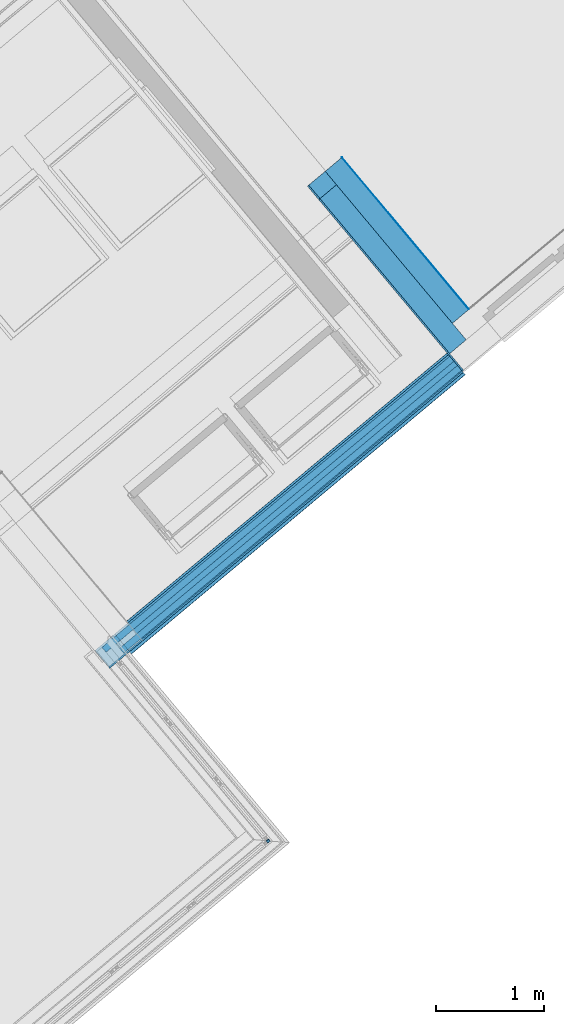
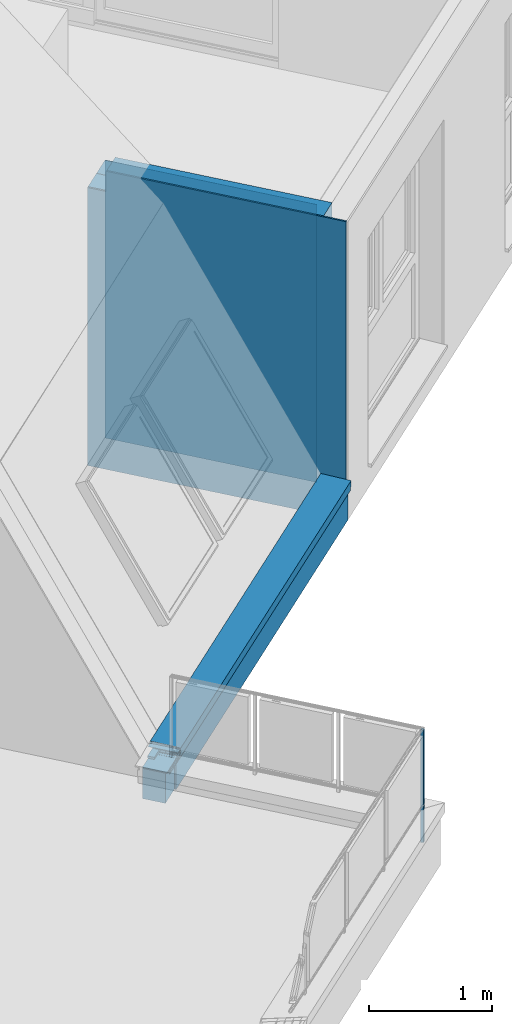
# One storey, part 30 of 61: 12 building element parts, 3 elements without a shape of their own.
"""IFC4 building model written with IfcOpenShell, lengths in metres."""

import ifcopenshell
import ifcopenshell.guid

model = None  # the IFC model being written
_history = None  # IfcOwnerHistory: only IFC2X3 demands one
_inside = {}  # id of a spatial element -> (the spatial element, [elements in it])
_under = {}  # id of a project, library or spatial element -> (it, [spatial elements below it])
_declared = {}  # id of a project -> (the project, [libraries it declares])
_typed = {}  # id of a type object -> (the type object, [elements of that type])
_made_of = {}  # id of a material, layer set ... -> (it, [elements and type objects made of it])


def new_model(schema):
    """Start an empty IFC model of exactly this schema.

    Asked for "IFC4X3", IfcOpenShell would pick the latest addendum, in which some entities
    have other attributes; the version numbers below select the first issue.
    IFC2X3 requires an IfcOwnerHistory on every rooted entity: one is made here for all.
    """
    global model, _history
    if schema == "IFC4X3":
        model = ifcopenshell.file(schema_version=(4, 3, 0, 0))
    else:
        model = ifcopenshell.file(schema=schema)
    _inside.clear()
    _under.clear()
    _declared.clear()
    _typed.clear()
    _made_of.clear()
    _history = None
    if model.schema == "IFC2X3":
        org = make("IfcOrganization", Name="unknown")
        user = make(
            "IfcPersonAndOrganization",
            ThePerson=make("IfcPerson", FamilyName="unknown"),
            TheOrganization=org,
        )
        app = make(
            "IfcApplication",
            ApplicationDeveloper=org,
            Version="unknown",
            ApplicationFullName="unknown",
            ApplicationIdentifier="unknown",
        )
        _history = make(
            "IfcOwnerHistory",
            OwningUser=user,
            OwningApplication=app,
            ChangeAction="ADDED",
            CreationDate=0,
        )
    return model


def make(cls, **values):
    """One entity of the class cls with the attributes given. An attribute that is None is left unset."""
    return model.create_entity(
        cls, **{name: value for name, value in values.items() if value is not None}
    )


def entity(cls, *values):
    """Any entity or typed value of the class cls, its attributes in the order of the schema. None: left unset."""
    e = model.create_entity(cls)
    for i, value in enumerate(values):
        if value is not None:
            e[i] = value
    return e


def rooted(cls, **values):
    """An entity with a GlobalId (a new one), such as an element, a storey or a relation."""
    return make(cls, GlobalId=ifcopenshell.guid.new(), OwnerHistory=_history, **values)


def si_unit(unit_type, name, prefix=None):
    """IfcSIUnit, for example si_unit("LENGTHUNIT", "METRE", prefix="MILLI")."""
    return make("IfcSIUnit", UnitType=unit_type, Prefix=prefix, Name=name)


def converted_unit(unit_type, name, factor, base, dimensions=None, offset=None):
    """IfcConversionBasedUnit, such as the inch: factor (a typed value) times the base unit."""
    return make(
        "IfcConversionBasedUnit"
        if offset is None
        else "IfcConversionBasedUnitWithOffset",
        ConversionOffset=offset,
        Dimensions=None
        if dimensions is None
        else entity("IfcDimensionalExponents", *dimensions),
        UnitType=unit_type,
        Name=name,
        ConversionFactor=make(
            "IfcMeasureWithUnit", ValueComponent=factor, UnitComponent=base
        ),
    )


def derived_unit(unit_type, elements):
    """IfcDerivedUnit: a product of units, each with its exponent."""
    return make(
        "IfcDerivedUnit",
        Elements=[
            make("IfcDerivedUnitElement", Unit=unit, Exponent=power)
            for unit, power in elements
        ],
        UnitType=unit_type,
    )


def assignment(units):
    """IfcUnitAssignment: the units of a project."""
    return None if units is None else make("IfcUnitAssignment", Units=units)


def point(xyz):
    """IfcCartesianPoint."""
    return None if xyz is None else make("IfcCartesianPoint", Coordinates=xyz)


def direction(xyz):
    """IfcDirection."""
    return None if xyz is None else make("IfcDirection", DirectionRatios=xyz)


def frame(location, z_axis=None, x_axis=None):
    """IfcAxis2Placement3D, a coordinate frame: its origin and axes. An axis left out is left unset."""
    return make(
        "IfcAxis2Placement3D",
        Location=point(location),
        Axis=direction(z_axis),
        RefDirection=direction(x_axis),
    )


def origin_with_axes():
    """The frame at (0, 0, 0) with the z axis (0, 0, 1) and the x axis (1, 0, 0) written out."""
    return frame((0.0, 0.0, 0.0), z_axis=(0.0, 0.0, 1.0), x_axis=(1.0, 0.0, 0.0))


def place(relative_to, where):
    """IfcLocalPlacement: puts the frame where relative to a parent placement (None: the world)."""
    return make(
        "IfcLocalPlacement", PlacementRelTo=relative_to, RelativePlacement=where
    )


def context(
    kind, dimensions, precision=None, world=None, true_north=None, identifier=None
):
    """IfcGeometricRepresentationContext, for example the 3D "Model" context."""
    return make(
        "IfcGeometricRepresentationContext",
        ContextIdentifier=identifier,
        ContextType=kind,
        CoordinateSpaceDimension=dimensions,
        Precision=precision,
        WorldCoordinateSystem=world,
        TrueNorth=true_north,
    )


def subcontext(parent, identifier, kind, view, scale=None):
    """IfcGeometricRepresentationSubContext, for example "Body" below "Model"."""
    return make(
        "IfcGeometricRepresentationSubContext",
        ContextIdentifier=identifier,
        ContextType=kind,
        ParentContext=parent,
        TargetScale=scale,
        TargetView=view,
    )


def project(units=None, contexts=None):
    """IfcProject with its units and contexts."""
    return rooted(
        "IfcProject",
        Name="project",
        RepresentationContexts=contexts,
        UnitsInContext=assignment(units),
    )


def spatial(cls, under=None, at=None, **own):
    """A site, building, storey or space (cls), placed at a placement, below another one or the project."""
    s = rooted(cls, ObjectPlacement=at, **own)
    if under is not None:
        _under.setdefault(under.id(), (under, []))[1].append(s)
    return s


def point_list(points):
    """IfcCartesianPointList2D or 3D."""
    cls = (
        "IfcCartesianPointList2D" if len(points[0]) == 2 else "IfcCartesianPointList3D"
    )
    return make(cls, CoordList=points)


def polygons(points, faces, closed=None, point_numbers=None):
    """IfcPolygonalFaceSet: a face is its outer loop, then its inner loops; points numbered from 1."""
    made = []
    for loops in faces:
        if len(loops) == 1:
            made.append(make("IfcIndexedPolygonalFace", CoordIndex=loops[0]))
        else:
            made.append(
                make(
                    "IfcIndexedPolygonalFaceWithVoids",
                    CoordIndex=loops[0],
                    InnerCoordIndices=loops[1:],
                )
            )
    return make(
        "IfcPolygonalFaceSet",
        Coordinates=point_list(points),
        Closed=closed,
        Faces=made,
        PnIndex=point_numbers,
    )


def shape(context_of_items, identifier, shape_type, items):
    """IfcShapeRepresentation: the items that make up one representation, for example the "Body"."""
    return make(
        "IfcShapeRepresentation",
        ContextOfItems=context_of_items,
        RepresentationIdentifier=identifier,
        RepresentationType=shape_type,
        Items=items,
    )


def material(Name=None, Category=None):
    """IfcMaterial."""
    return make("IfcMaterial", Name=Name, Category=Category)


def made_of(thing, what):
    """Note that an element or type object is made of a material, layer set ...; save() writes the relation."""
    if what is not None:
        _made_of.setdefault(what.id(), (what, []))[1].append(thing)
    return thing


def type_object(cls, material=None, **own):
    """A type object (cls), such as IfcWallType, which elements share."""
    return made_of(rooted(cls, **own), material)


def element(
    cls,
    number,
    at=None,
    inside=None,
    cuts=None,
    type_object=None,
    material=None,
    context=None,
    identifier="Body",
    shape_type=None,
    held_by="IfcProductDefinitionShape",
    body=None,
    shapes=None,
    **own,
):
    """One element of the class cls, such as IfcWall. Its Tag is "e" and its number.

    at: its placement. inside: the storey or other place that contains it. cuts: it is an
    opening in that element (IfcRelVoidsElement). A single representation is given by context,
    identifier, shape_type and body (its items); several are given by shapes. held_by: the class
    of the entity that holds the representations. save() writes the other relations.
    """
    e = rooted(cls, Tag="e%d" % number, ObjectPlacement=at, **own)
    if body is not None:
        shapes = [shape(context, identifier, shape_type, body)]
    if shapes is not None:
        e.Representation = make(held_by, Representations=shapes)
    if inside is not None:
        _inside.setdefault(inside.id(), (inside, []))[1].append(e)
    if cuts is not None:
        rooted(
            "IfcRelVoidsElement", RelatingBuildingElement=cuts, RelatedOpeningElement=e
        )
    if type_object is not None:
        _typed.setdefault(type_object.id(), (type_object, []))[1].append(e)
    return made_of(e, material)


def aggregate(whole, parts):
    """IfcRelAggregates: a whole, such as a stair, and the parts it consists of."""
    return rooted("IfcRelAggregates", RelatingObject=whole, RelatedObjects=parts)


def save(model, path):
    """Write the relations noted so far, then the file.

    IfcRelAggregates (storeys below a building ...), IfcRelContainedInSpatialStructure (elements
    in a storey), IfcRelDefinesByType, IfcRelAssociatesMaterial and IfcRelDeclares: one each for
    every whole, place, type object, material and project.
    """
    for whole, parts in _under.values():
        aggregate(whole, parts)
    for where, things in _inside.values():
        rooted(
            "IfcRelContainedInSpatialStructure",
            RelatedElements=things,
            RelatingStructure=where,
        )
    for kind, things in _typed.values():
        rooted("IfcRelDefinesByType", RelatedObjects=things, RelatingType=kind)
    for what, things in _made_of.values():
        rooted("IfcRelAssociatesMaterial", RelatedObjects=things, RelatingMaterial=what)
    for by, libraries in _declared.values():
        rooted("IfcRelDeclares", RelatingContext=by, RelatedDefinitions=libraries)
    model.write(path)


model = new_model("IFC4")

# Units and contexts
model_context = context("Model", 3, precision=1e-05, world=origin_with_axes(), true_north=direction((0.0, 1.0)))
body_context = subcontext(model_context, "Body", "Model", "MODEL_VIEW")
ifc_project = project(units=[si_unit("LENGTHUNIT", "METRE"), si_unit("AREAUNIT", "SQUARE_METRE"), si_unit("VOLUMEUNIT", "CUBIC_METRE"), converted_unit("PLANEANGLEUNIT", "DEGREE", entity("IfcPlaneAngleMeasure", 0.0174532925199), si_unit("PLANEANGLEUNIT", "RADIAN"), dimensions=[0, 0, 0, 0, 0, 0, 0]), converted_unit("TIMEUNIT", "Year", entity("IfcTimeMeasure", 31556926.0), si_unit("TIMEUNIT", "SECOND"), dimensions=[0, 0, 1, 0, 0, 0, 0]), si_unit("MASSUNIT", "GRAM", prefix="KILO"), si_unit("THERMODYNAMICTEMPERATUREUNIT", "DEGREE_CELSIUS"), si_unit("LUMINOUSINTENSITYUNIT", "LUMEN"), si_unit("ENERGYUNIT", "JOULE", prefix="MEGA"), derived_unit("THERMALCONDUCTANCEUNIT", [(si_unit("POWERUNIT", "WATT"), 1), (si_unit("LENGTHUNIT", "METRE"), -1), (si_unit("THERMODYNAMICTEMPERATUREUNIT", "KELVIN"), -1)]), derived_unit("SPECIFICHEATCAPACITYUNIT", [(si_unit("ENERGYUNIT", "JOULE"), 1), (si_unit("MASSUNIT", "GRAM", prefix="KILO"), -1), (si_unit("THERMODYNAMICTEMPERATUREUNIT", "KELVIN"), -1)]), derived_unit("MASSDENSITYUNIT", [(si_unit("MASSUNIT", "GRAM", prefix="KILO"), 1), (si_unit("VOLUMEUNIT", "CUBIC_METRE"), -1)])], contexts=[model_context])

# Site, building, storey, space
site_placement = place(None, frame((-0.00153261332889, -0.00661245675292, 0.0), z_axis=(0.0, 0.0, 1.0), x_axis=(1.0, 0.0, 0.0)))
site = spatial("IfcSite", under=ifc_project, at=site_placement, Name="Gelände", CompositionType="ELEMENT")
building_placement = place(site_placement, origin_with_axes())
building = spatial("IfcBuilding", under=site, at=building_placement, Name="Gebäude", CompositionType="ELEMENT")
storey_placement = place(building_placement, frame((0.0, 0.0, 5.7), z_axis=(0.0, 0.0, 1.0), x_axis=(1.0, 0.0, 0.0)))
storey = spatial("IfcBuildingStorey", under=building, at=storey_placement, Name="DG1", CompositionType="ELEMENT", Elevation=5.7)
space_1_placement = place(storey_placement, frame((12.8063322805, 20.3315828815, 0.22), z_axis=(0.0, 0.0, 1.0), x_axis=(-0.641209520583, 0.767365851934, 0.0)))
space_1 = spatial("IfcSpace", under=storey, at=space_1_placement, CompositionType="ELEMENT", PredefinedType="NOTDEFINED")

# Wall, building element parts
wall_type_1 = type_object("IfcWallType", Name="AW EG 420", PredefinedType="NOTDEFINED")
wall_1_placement = place(space_1_placement, frame((-0.423323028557, 5.1025444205, -0.22), z_axis=(0.0, 0.0, 1.0), x_axis=(0.999999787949, 0.000651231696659, 0.0)))
wall_1 = element("IfcWall", 1, at=wall_1_placement, inside=space_1, type_object=wall_type_1, Name="Wand-002", PredefinedType="NOTDEFINED")
ifc_material_1 = material(Name="Zementputz")
building_element_part_1_placement = place(wall_1_placement, origin_with_axes())
building_element_part_1 = element("IfcBuildingElementPart", 2, at=building_element_part_1_placement, material=ifc_material_1, Name="Zementputz", PredefinedType="NOTDEFINED", context=body_context, shape_type="Tessellation", body=[
    polygons([(2.25613789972, 0.405, 2.76), (2.09288288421, 0.405, 2.76), (2.09288288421, 0.405, 2.96), (0.0149999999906, 0.405, 2.96), (0.0149999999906, 0.405, 0.0), (2.25613789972, 0.405, 0.0), (2.25613789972, 0.42, 2.76), (2.09288288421, 0.42, 2.76), (2.09288288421, 0.42, 2.96), (0.0149999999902, 0.42, 2.96), (0.0149999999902, 0.42, 0.0), (2.25613789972, 0.42, 0.0)], [[[1, 2, 3, 4, 5, 6]], [[2, 1, 7, 8]], [[9, 3, 2, 8]], [[3, 9, 10, 4]], [[5, 4, 10, 11]], [[11, 12, 6, 5]], [[7, 1, 6, 12]], [[8, 7, 12, 11, 10, 9]]], closed=True),
])
ifc_material_2 = material(Name="EPS 1")
building_element_part_2_placement = place(wall_1_placement, origin_with_axes())
building_element_part_2 = element("IfcBuildingElementPart", 3, at=building_element_part_2_placement, material=ifc_material_2, Name="EPS 1", PredefinedType="NOTDEFINED", context=body_context, shape_type="Tessellation", body=[
    polygons([(2.25613789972, 0.205, 2.76), (2.09288288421, 0.204999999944, 2.76), (2.09288288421, 0.204999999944, 2.96), (0.214999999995, 0.205, 2.96), (0.214999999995, 0.205, 0.0), (2.25613789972, 0.205, 0.0), (2.25613789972, 0.405, 2.76), (2.09288288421, 0.405, 2.76), (2.09288288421, 0.405, 2.96), (0.214999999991, 0.405, 2.96), (0.214999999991, 0.405, 0.0), (2.25613789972, 0.405, 0.0)], [[[1, 2, 3, 4, 5, 6]], [[2, 1, 7, 8]], [[9, 3, 2, 8]], [[3, 9, 10, 4]], [[5, 4, 10, 11]], [[11, 12, 6, 5]], [[7, 1, 6, 12]], [[8, 7, 12, 11, 10, 9]]], closed=True),
])
ifc_material_3 = material(Name="Stahlbeton Wand")
building_element_part_3_placement = place(wall_1_placement, origin_with_axes())
building_element_part_3 = element("IfcBuildingElementPart", 4, at=building_element_part_3_placement, material=ifc_material_3, Name="Stahlbeton Wand", PredefinedType="NOTDEFINED", context=body_context, shape_type="Tessellation", body=[
    polygons([(2.25613789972, 0.005, 2.76), (0.415, 0.005, 2.76), (0.415, 0.005, 0.0), (2.25613789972, 0.005, 0.0), (2.25613789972, 0.205, 2.76), (2.09288288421, 0.204999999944, 2.76), (0.414999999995, 0.204999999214, 2.76), (0.414999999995, 0.205, 0.0), (2.25613789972, 0.205, 0.0)], [[[1, 2, 3, 4]], [[2, 1, 5, 6, 7]], [[2, 7, 8, 3]], [[8, 9, 4, 3]], [[5, 1, 4, 9]], [[6, 5, 9, 8, 7]]], closed=True),
])
building_element_part_4_placement = place(wall_1_placement, origin_with_axes())
building_element_part_4 = element("IfcBuildingElementPart", 5, at=building_element_part_4_placement, material=ifc_material_1, Name="Zementputz", PredefinedType="NOTDEFINED", context=body_context, shape_type="Tessellation", body=[
    polygons([(2.25613789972, 0.0, 2.76), (0.42, 0.0, 2.76), (0.42, 0.0, 0.0), (2.25613789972, 0.0, 0.0), (2.25613789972, 0.005, 2.76), (0.42, 0.005, 2.76), (0.42, 0.005, 0.0), (2.25613789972, 0.005, 0.0)], [[[1, 2, 3, 4]], [[2, 1, 5, 6]], [[2, 6, 7, 3]], [[7, 8, 4, 3]], [[5, 1, 4, 8]], [[5, 8, 7, 6]]], closed=True),
])
aggregate(wall_1, [building_element_part_1, building_element_part_2, building_element_part_3, building_element_part_4])

wall_type_2 = type_object("IfcWallType", Name="Bauteil - Attika Abschluss wand 264 x 407", PredefinedType="NOTDEFINED")
wall_2_placement = place(storey_placement, frame((5.41721401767, 13.8814716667, -0.2), z_axis=(0.0, 0.0, 1.0), x_axis=(0.766912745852, 0.641751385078, 0.0)))
wall_2 = element("IfcWall", 6, at=wall_2_placement, inside=storey, type_object=wall_type_2, Name="Wand-003", PredefinedType="NOTDEFINED")
ifc_material_4 = material(Name="Vollholz")
building_element_part_5_placement = place(wall_2_placement, origin_with_axes())
building_element_part_5 = element("IfcBuildingElementPart", 7, at=building_element_part_5_placement, material=ifc_material_4, Name="Vollholz", PredefinedType="NOTDEFINED", context=body_context, shape_type="Tessellation", body=[
    polygons([(0.189993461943, -0.019237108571, 0.584512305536), (0.189996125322, -0.0352103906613, 0.584015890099), (0.190003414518, -0.0789260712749, 0.582657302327), (4.28334647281, -0.0789260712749, 0.582657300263), (4.28334647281, -0.019237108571, 0.584512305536), (0.189996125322, -0.0192353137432, 0.584015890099), (0.190003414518, -0.0192304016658, 0.582657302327), (0.130124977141, -0.0789416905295, 0.581066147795), (0.0701429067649, -0.0789416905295, 0.581066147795), (0.0701429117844, -0.0789539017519, 0.57982217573), (0.0701429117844, -0.078959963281, 0.579204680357), (0.0701429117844, -0.0789755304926, 0.577618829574), (0.0701429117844, -0.0789955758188, 0.575576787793), (0.0701429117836, -0.07914848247, 0.560000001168), (4.28334647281, -0.07914848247, 0.560000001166), (0.190007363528, -0.0789332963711, 0.581921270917), (0.190011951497, -0.0789416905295, 0.581066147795), (4.28334647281, -0.01914848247, 0.560000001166), (0.0701429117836, -0.01914848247, 0.560000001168), (0.0701429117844, -0.0192048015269, 0.575576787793), (0.0701429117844, -0.0192121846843, 0.577618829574), (0.0701429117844, -0.0192179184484, 0.579204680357), (0.0701429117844, -0.0192201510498, 0.57982217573), (0.0701429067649, -0.0192246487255, 0.581066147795), (0.130124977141, -0.0192246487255, 0.581066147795), (0.190011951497, -0.0192246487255, 0.581066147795), (0.190007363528, -0.0192277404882, 0.581921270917)], [[[1, 2, 3, 4, 5]], [[6, 2, 1]], [[2, 6, 7, 3]], [[8, 9, 10, 11, 12, 13, 14, 15, 4, 3, 16, 17]], [[5, 4, 15, 18]], [[6, 1, 5, 18, 19, 20, 21, 22, 23, 24, 25, 26, 27, 7]], [[3, 7, 27, 16]], [[24, 9, 8, 25]], [[24, 23, 10, 9]], [[10, 23, 22, 11]], [[11, 22, 21, 12]], [[13, 12, 21, 20]], [[19, 14, 13, 20]], [[19, 18, 15, 14]], [[17, 16, 27, 26]], [[26, 25, 8, 17]]], closed=True),
])
building_element_part_6_placement = place(wall_2_placement, origin_with_axes())
building_element_part_6 = element("IfcBuildingElementPart", 8, at=building_element_part_6_placement, material=ifc_material_2, Name="EPS 1", PredefinedType="NOTDEFINED", context=body_context, shape_type="Tessellation", body=[
    polygons([(2.39909425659e-10, -2.39909425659e-10, 0.499999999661), (2.39909425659e-10, -0.19999996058, 0.499999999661), (4.28334647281, -0.19999996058, 0.499999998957), (4.28334647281, -2.39909425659e-10, 0.499999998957), (2.39909425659e-10, -0.19999996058, 0.498951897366), (2.39911202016e-10, -2.39909425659e-10, 0.498951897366), (2.39909425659e-10, -0.19999996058, 0.498915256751), (2.39909425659e-10, -0.19999996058, 0.496604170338), (2.39909425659e-10, -0.19999996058, 0.334999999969), (-6.37704999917e-10, -0.19999996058, 0.199999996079), (4.28334647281, -0.19999996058, 0.2), (4.28334647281, -2.39909425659e-10, 0.2), (-6.37704999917e-10, -2.39910313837e-10, 0.199999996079), (2.39911202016e-10, -2.39909425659e-10, 0.334999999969), (2.39911202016e-10, -2.39909425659e-10, 0.496604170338), (2.39911202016e-10, -2.39909425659e-10, 0.498915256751)], [[[1, 2, 3, 4]], [[5, 2, 1, 6]], [[2, 5, 7, 8, 9, 10, 11, 3]], [[11, 12, 4, 3]], [[6, 1, 4, 12, 13, 14, 15, 16]], [[5, 6, 16, 7]], [[7, 16, 15, 8]], [[8, 15, 14, 9]], [[9, 14, 13, 10]], [[11, 10, 13, 12]]], closed=True),
])
ifc_material_5 = material(Name="Brettschichtholz")
building_element_part_7_placement = place(wall_2_placement, origin_with_axes())
building_element_part_7 = element("IfcBuildingElementPart", 9, at=building_element_part_7_placement, material=ifc_material_5, Name="Brettschichtholz", PredefinedType="NOTDEFINED", context=body_context, shape_type="Tessellation", body=[
    polygons([(0.241356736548, -0.190124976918, 0.5600000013), (0.241356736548, -0.214999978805, 0.5600000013), (4.28334647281, -0.214999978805, 0.560000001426), (4.28334647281, -0.190124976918, 0.560000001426), (0.241354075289, -0.214999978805, 0.519273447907), (0.241356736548, -0.13012497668, 0.5600000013), (0.241356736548, -0.0791484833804, 0.5600000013), (0.241356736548, -0.0191484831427, 0.5600000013), (0.241356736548, 2.37772468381e-09, 0.5600000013), (0.241354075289, 2.37772646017e-09, 0.519273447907), (0.233490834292, -0.214999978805, 0.5192734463), (0.241353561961, -0.214999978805, 0.511410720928), (0.239439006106, -0.214999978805, 0.511410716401), (0.214999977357, -0.214999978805, 0.511410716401), (0.214999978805, -0.214999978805, 0.509648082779), (0.0, -0.214999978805, 0.509648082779), (2.39907649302e-10, -0.214999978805, 0.509099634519), (2.39907649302e-10, -0.214999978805, 0.506731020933), (2.39907649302e-10, -0.214999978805, 0.501284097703), (2.39911202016e-10, -0.214999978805, 0.499999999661), (4.28334647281, -0.214999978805, 0.500000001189), (4.28334647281, -0.0191484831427, 0.560000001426), (4.28334647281, -0.0791484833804, 0.560000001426), (4.28334647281, -0.13012497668, 0.560000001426), (4.28334647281, 2.37772734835e-09, 0.500000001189), (4.28334647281, 2.37772734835e-09, 0.560000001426), (2.39907649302e-10, 2.37772557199e-09, 0.499999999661), (2.39907649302e-10, 2.37772557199e-09, 0.501284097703), (2.39907649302e-10, 2.37772557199e-09, 0.506731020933), (2.39907649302e-10, 2.37772557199e-09, 0.509099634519), (0.0, 2.37772557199e-09, 0.509648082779), (0.214999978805, 2.37772646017e-09, 0.509648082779), (0.214999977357, 2.37772646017e-09, 0.511410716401), (0.239439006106, 2.37772557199e-09, 0.511410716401), (0.241353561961, 2.37772646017e-09, 0.511410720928), (0.233490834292, 2.37772646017e-09, 0.5192734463)], [[[1, 2, 3, 4]], [[5, 2, 1, 6, 7, 8, 9, 10]], [[5, 11, 12, 13, 14, 15, 16, 17, 18, 19, 20, 21, 3, 2]], [[22, 23, 24, 4, 3, 21, 25, 26]], [[6, 1, 4, 24]], [[7, 6, 24, 23]], [[8, 7, 23, 22]], [[9, 8, 22, 26]], [[10, 9, 26, 25, 27, 28, 29, 30, 31, 32, 33, 34, 35, 36]], [[11, 5, 10, 36]], [[11, 36, 35, 12]], [[13, 12, 35, 34]], [[13, 34, 33, 14]], [[14, 33, 32, 15]], [[16, 15, 32, 31]], [[16, 31, 30, 17]], [[17, 30, 29, 18]], [[18, 29, 28, 19]], [[19, 28, 27, 20]], [[20, 27, 25, 21]]], closed=True),
])
building_element_part_8_placement = place(wall_2_placement, origin_with_axes())
building_element_part_8 = element("IfcBuildingElementPart", 10, at=building_element_part_8_placement, material=ifc_material_4, Name="Vollholz", PredefinedType="NOTDEFINED", context=body_context, shape_type="Tessellation", body=[
    polygons([(0.190011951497, -0.130124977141, 0.581066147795), (0.190018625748, -0.170152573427, 0.57982217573), (0.19002193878, -0.19002193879, 0.579204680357), (4.28334647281, -0.19002193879, 0.57920467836), (4.28334647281, -0.130124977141, 0.581066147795), (0.190018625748, -0.130124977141, 0.57982217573), (0.19002193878, -0.130124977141, 0.579204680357), (0.190030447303, -0.190030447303, 0.577618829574), (0.190041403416, -0.190041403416, 0.575576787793), (0.190124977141, -0.190124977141, 0.560000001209), (4.28334647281, -0.190124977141, 0.560000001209), (4.28334647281, -0.130124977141, 0.560000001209), (0.190124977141, -0.130124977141, 0.560000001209), (0.190041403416, -0.130124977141, 0.575576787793), (0.190030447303, -0.130124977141, 0.577618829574)], [[[1, 2, 3, 4, 5]], [[6, 2, 1]], [[2, 6, 7, 3]], [[4, 3, 8, 9, 10, 11]], [[11, 12, 5, 4]], [[6, 1, 5, 12, 13, 14, 15, 7]], [[15, 8, 3, 7]], [[9, 8, 15, 14]], [[9, 14, 13, 10]], [[13, 12, 11, 10]]], closed=True),
])
building_element_part_9_placement = place(wall_2_placement, origin_with_axes())
building_element_part_9 = element("IfcBuildingElementPart", 11, at=building_element_part_9_placement, material=ifc_material_1, Name="Zementputz", PredefinedType="NOTDEFINED", context=body_context, shape_type="Tessellation", body=[
    polygons([(2.39909425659e-10, -0.199999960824, 0.499999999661), (2.39911202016e-10, -0.214999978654, 0.499999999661), (4.28334647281, -0.214999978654, 0.499999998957), (4.28334647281, -0.199999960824, 0.499999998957), (2.39909425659e-10, -0.214999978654, 0.498951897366), (2.39909425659e-10, -0.199999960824, 0.498951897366), (0.199999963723, -0.214999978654, 0.498951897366), (0.214999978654, -0.214999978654, 0.498951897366), (0.214999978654, -0.214999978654, 0.498915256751), (0.214999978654, -0.214999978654, 0.496604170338), (0.214999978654, -0.214999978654, 0.334999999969), (0.214999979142, -0.214999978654, 0.2), (4.28334647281, -0.214999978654, 0.2), (4.28334647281, -0.199999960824, 0.2), (0.214999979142, -0.199999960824, 0.2), (0.214999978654, -0.199999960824, 0.334999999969), (0.214999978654, -0.199999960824, 0.496604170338), (0.214999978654, -0.199999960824, 0.498915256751), (0.214999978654, -0.199999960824, 0.498951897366), (0.199999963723, -0.199999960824, 0.498951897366)], [[[1, 2, 3, 4]], [[5, 2, 1, 6]], [[2, 5, 7, 8, 9, 10, 11, 12, 13, 3]], [[3, 13, 14, 4]], [[6, 1, 4, 14, 15, 16, 17, 18, 19, 20]], [[5, 6, 20, 7]], [[8, 7, 20, 19]], [[9, 8, 19, 18]], [[9, 18, 17, 10]], [[10, 17, 16, 11]], [[11, 16, 15, 12]], [[12, 15, 14, 13]]], closed=True),
])
ifc_material_6 = material(Name="Stahl")
building_element_part_10_placement = place(wall_2_placement, origin_with_axes())
building_element_part_10 = element("IfcBuildingElementPart", 12, at=building_element_part_10_placement, material=ifc_material_6, Name="Stahl", PredefinedType="NOTDEFINED", context=body_context, shape_type="Tessellation", body=[
    polygons([(2.39909425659e-10, -0.236153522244, 0.501284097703), (2.39909425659e-10, -0.231381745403, 0.506731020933), (2.39907649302e-10, -0.229581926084, 0.506731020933), (2.39907649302e-10, -0.234353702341, 0.501284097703), (4.28334647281, -0.236153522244, 0.501284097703), (4.28334647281, -0.228826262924, 0.509648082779), (2.39911202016e-10, -0.228826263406, 0.509648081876), (2.39909425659e-10, -0.229306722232, 0.509099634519), (2.39911202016e-10, -0.228258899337, 0.509099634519), (2.39909425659e-10, -0.227851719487, 0.508706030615), (2.39909425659e-10, -0.236396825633, 0.498951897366), (2.39911202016e-10, -0.235478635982, 0.499999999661), (4.28334647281, -0.22785172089, 0.508706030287), (4.28334647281, -0.236396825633, 0.498951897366), (2.39911202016e-10, -0.23742544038, 0.499999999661), (2.39909425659e-10, -0.237510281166, 0.501284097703), (2.39911202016e-10, -0.23651376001, 0.506731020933), (2.39909425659e-10, -0.236670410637, 0.509099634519), (0.214999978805, -0.236670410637, 0.509099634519), (0.241750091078, -0.236670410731, 0.509099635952), (0.242298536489, -0.236706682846, 0.509648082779), (0.242707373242, -0.23673372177, 0.510056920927), (0.242707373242, -0.236823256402, 0.511410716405), (0.242707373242, -0.237343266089, 0.519273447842), (0.242707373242, -0.240036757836, 0.560000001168), (0.242707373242, -0.241066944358, 0.575576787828), (0.242707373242, -0.241201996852, 0.577618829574), (0.242707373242, -0.241306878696, 0.579204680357), (0.242707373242, -0.241347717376, 0.57982217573), (0.242707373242, -0.241429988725, 0.581066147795), (0.242707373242, -0.241486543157, 0.581921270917), (0.242707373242, -0.241535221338, 0.582657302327), (0.242707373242, -0.241625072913, 0.584015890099), (0.242707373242, -0.241657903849, 0.584512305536), (0.242707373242, -0.241763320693, 0.586106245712), (0.242707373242, -0.242407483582, 0.595846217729), (0.242707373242, -0.242570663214, 0.598313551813), (4.28334647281, -0.242570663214, 0.598313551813), (4.28334647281, -0.237415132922, 0.499843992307), (4.28334647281, -0.241694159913, 0.598339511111), (4.28334647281, 0.0197570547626, 0.606129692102), (4.28334647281, 0.0197167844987, 0.607483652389), (4.28334647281, -0.244007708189, 0.59962516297), (2.39911202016e-10, -0.237415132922, 0.499843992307), (0.242707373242, -0.244007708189, 0.599625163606), (0.242707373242, -0.243922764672, 0.598339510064), (0.242707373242, -0.243758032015, 0.595846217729), (0.242707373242, -0.243114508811, 0.586106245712), (0.242707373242, -0.243009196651, 0.584512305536), (0.242707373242, -0.242976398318, 0.584015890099), (0.242707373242, -0.24288663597, 0.582657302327), (0.242707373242, -0.242838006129, 0.581921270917), (0.242707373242, -0.242781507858, 0.581066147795), (0.242707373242, -0.242699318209, 0.57982217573), (0.242707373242, -0.242658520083, 0.579204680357), (0.242707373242, -0.242553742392, 0.577618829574), (0.242707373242, -0.242418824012, 0.575576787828), (0.242707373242, -0.241389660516, 0.560000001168), (0.242707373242, -0.238698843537, 0.519273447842), (0.242707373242, -0.238179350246, 0.511410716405), (0.242707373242, -0.238089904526, 0.510056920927), (0.242298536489, -0.238062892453, 0.509648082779), (0.241750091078, -0.238026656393, 0.509099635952), (0.214999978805, -0.238026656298, 0.509099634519), (2.39909425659e-10, -0.238026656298, 0.509099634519), (2.39911202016e-10, -0.237870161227, 0.506731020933), (0.242707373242, -0.241694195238, 0.598339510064), (0.242707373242, 0.0197570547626, 0.606129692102), (0.242707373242, 0.0197167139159, 0.607483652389), (0.242707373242, -0.02572104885, 0.606129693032)], [[[1, 2, 3, 4]], [[2, 1, 5, 6, 7, 8]], [[2, 8, 9, 10, 3]], [[11, 12, 4, 3, 10, 13, 14]], [[15, 16, 1, 4, 12]], [[1, 17, 18, 19, 20, 21, 22, 23, 24, 25, 26, 27, 28, 29, 30, 31, 32, 33, 34, 35, 36, 37, 38, 5]], [[39, 14, 13, 6, 5, 38, 40, 41, 42, 43]], [[9, 7, 6, 13, 10]], [[9, 8, 7]], [[11, 44, 15, 12]], [[44, 11, 14, 39]], [[15, 44, 39, 43, 45, 46, 47, 48, 49, 50, 51, 52, 53, 54, 55, 56, 57, 58, 59, 60, 61, 62, 63, 64, 65, 66, 16]], [[1, 16, 66, 17]], [[17, 66, 65, 18]], [[18, 65, 64, 19]], [[19, 64, 63, 20]], [[20, 63, 62, 21]], [[22, 21, 62, 61]], [[23, 22, 61, 60]], [[23, 60, 59, 24]], [[25, 24, 59, 58]], [[58, 57, 26, 25]], [[57, 56, 27, 26]], [[56, 55, 28, 27]], [[55, 54, 29, 28]], [[54, 53, 30, 29]], [[53, 52, 31, 30]], [[52, 51, 32, 31]], [[51, 50, 33, 32]], [[50, 49, 34, 33]], [[48, 35, 34, 49]], [[35, 48, 47, 36]], [[36, 47, 46, 67, 37]], [[37, 67, 40, 38]], [[67, 68, 41, 40]], [[68, 69, 42, 41]], [[69, 70, 45, 43, 42]], [[70, 68, 67, 46, 45]], [[69, 68, 70]]], closed=True),
])
ifc_material_7 = material(Name="Holzwerkstoff")
building_element_part_11_placement = place(wall_2_placement, origin_with_axes())
building_element_part_11 = element("IfcBuildingElementPart", 13, at=building_element_part_11_placement, material=ifc_material_7, Name="Holzwerkstoff", PredefinedType="NOTDEFINED", context=body_context, shape_type="Tessellation", body=[
    polygons([(0.239361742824, 0.0197570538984, 0.606129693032), (0.239633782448, -0.241694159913, 0.598339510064), (4.28334647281, -0.241694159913, 0.598339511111), (4.28334647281, 0.0197570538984, 0.606129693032), (0.239633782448, 0.0199991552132, 0.598339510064), (4.28334647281, -0.241050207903, 0.577618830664), (0.239720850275, -0.241616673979, 0.595846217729), (0.23999998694, -0.241368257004, 0.587852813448), (0.189984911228, -0.241313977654, 0.586106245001), (0.189993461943, -0.241264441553, 0.584512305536), (0.189996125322, -0.241249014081, 0.584015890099), (0.190003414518, -0.241206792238, 0.582657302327), (0.190007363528, -0.241183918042, 0.581921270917), (0.190011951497, -0.241157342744, 0.581066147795), (0.190018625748, -0.241118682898, 0.57982217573), (0.19002193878, -0.241099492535, 0.579204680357), (0.190030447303, -0.241050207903, 0.577618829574), (4.28334647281, -0.190021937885, 0.579204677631), (4.28334647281, -0.130124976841, 0.581066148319), (4.28334647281, -0.0789260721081, 0.582657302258), (4.28334647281, -0.0192371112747, 0.584512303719), (4.28334647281, 0.0203906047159, 0.585743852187), (0.189986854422, 0.0203906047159, 0.585743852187), (0.189984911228, 0.0203793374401, 0.586106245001), (0.23999998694, 0.0203250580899, 0.587852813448), (0.239720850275, 0.0200766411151, 0.595846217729), (0.189993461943, -0.0192371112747, 0.584512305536), (0.189996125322, -0.0352105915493, 0.584015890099), (0.190003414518, -0.0789260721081, 0.582657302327), (0.190007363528, -0.102609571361, 0.581921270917), (0.190011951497, -0.130124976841, 0.581066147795), (0.190018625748, -0.170152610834, 0.57982217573), (0.19002193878, -0.190021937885, 0.579204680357)], [[[1, 2, 3, 4]], [[5, 2, 1]], [[6, 3, 2, 7, 8, 9, 10, 11, 12, 13, 14, 15, 16, 17]], [[3, 6, 18, 19, 20, 21, 22, 4]], [[5, 1, 4, 22, 23, 24, 25, 26]], [[2, 5, 26, 7]], [[25, 8, 7, 26]], [[9, 8, 25, 24]], [[24, 23, 27, 10, 9]], [[27, 28, 11, 10]], [[28, 29, 12, 11]], [[29, 30, 13, 12]], [[13, 30, 31, 14]], [[15, 14, 31, 32]], [[32, 33, 16, 15]], [[17, 16, 33]], [[17, 33, 18, 6]], [[33, 32, 31, 19, 18]], [[30, 29, 20, 19, 31]], [[29, 28, 27, 21, 20]], [[23, 22, 21, 27]]], closed=True),
])
aggregate(wall_2, [building_element_part_5, building_element_part_6, building_element_part_7, building_element_part_8, building_element_part_9, building_element_part_10, building_element_part_11])

# Space
space_2_placement = place(storey_placement, frame((-1.65459986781, 9.80045444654, 0.22), z_axis=(0.0, 0.0, 1.0), x_axis=(0.640908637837, -0.767617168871, 0.0)))
space_2 = spatial("IfcSpace", under=storey, at=space_2_placement, CompositionType="ELEMENT", PredefinedType="NOTDEFINED")

# Railing, building element part
railing_type = type_object("IfcRailingType", Name="Geländerart", PredefinedType="NOTDEFINED")
railing_placement = place(space_2_placement, frame((-0.0155551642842, 0.517171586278, 0.16), z_axis=(0.0, 0.0, 1.0), x_axis=(0.640908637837, 0.767617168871, 0.0)))
railing = element("IfcRailing", 14, at=railing_placement, inside=space_2, type_object=railing_type, Name="Geländer - 001", PredefinedType="NOTDEFINED")
ifc_material_8 = material(Name="Aluminium")
building_element_part_12_placement = place(railing_placement, origin_with_axes())
building_element_part_12 = element("IfcBuildingElementPart", 15, at=building_element_part_12_placement, material=ifc_material_8, Name="Aluminium", PredefinedType="NOTDEFINED", context=body_context, shape_type="Tessellation", body=[
    polygons([(8.3124861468, 1.96775032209, -0.3), (8.29645632, 1.98693481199, -0.3), (8.29645632, 1.98693481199, 0.82), (8.3124861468, 1.96775032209, 0.82), (8.29330165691, 1.95172049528, -0.3), (8.2772718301, 1.97090498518, -0.3), (8.2772718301, 1.97090498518, 0.82), (8.29330165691, 1.95172049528, 0.82)], [[[1, 2, 3, 4]], [[1, 5, 6, 2]], [[2, 6, 7, 3]], [[4, 3, 7, 8]], [[5, 1, 4, 8]], [[6, 5, 8, 7]]], closed=True),
])
aggregate(railing, [building_element_part_12])

save(model, "model.ifc")
